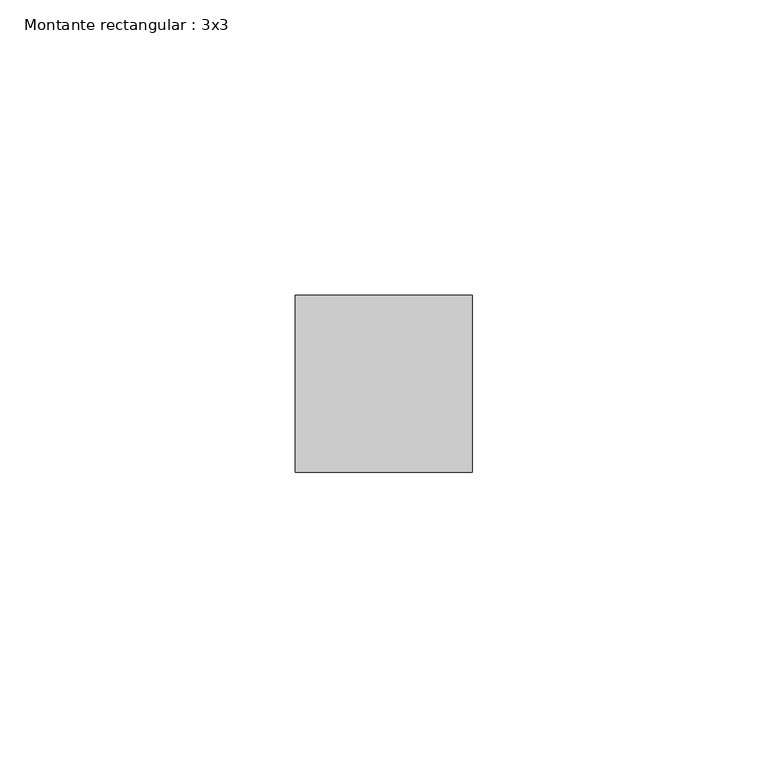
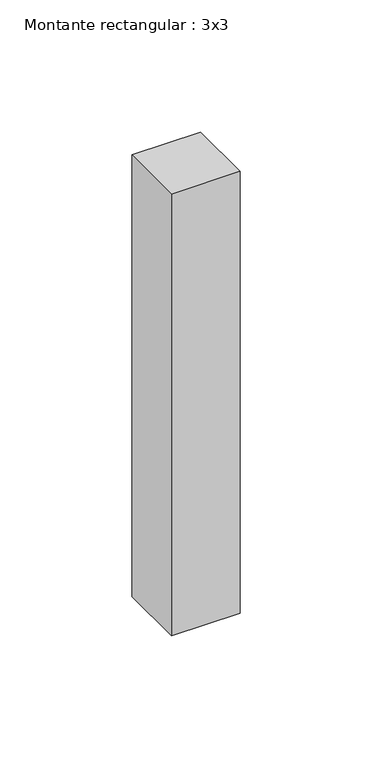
"""IFC4 building model written with IfcOpenShell, lengths in millimetres: member geometry, Montante rectangular : 3x3."""

from ifc_helpers import new_model, si_unit, frame, origin, place, context, project, spatial, polyline, outline, extrude, source, transform, mapped, element, save


def montante_rectangular_3x3_94af334b(model_context):
    return source(origin(), model_context, "Body", "SweptSolid", [
        extrude(outline(polyline([(0.0, 15.0), (0.0, -15.0), (-30.0, -15.0), (-30.0, 15.0), (0.0, 15.0)])), frame((0.0, 0.0, -204.0670737), z_axis=(0.0, 0.0, 1.0), x_axis=(1.0, 0.0, 0.0)), (0.0, 0.0, 1.0), 204.0670737),
    ])


if __name__ == "__main__":
    model = new_model("IFC4")
    model_context = context("Model", 3, world=origin())
    ifc_project = project(units=[si_unit("LENGTHUNIT", "METRE", prefix="MILLI")], contexts=[model_context])
    site = spatial("IfcSite", under=ifc_project)
    building = spatial("IfcBuilding", under=site)
    placement = place(None, origin())
    montante_rectangular_3x3_shape = montante_rectangular_3x3_94af334b(model_context)
    element("IfcMember", 1, ObjectType="Montante rectangular : 3x3", at=placement, inside=building, context=model_context, shape_type="MappedRepresentation", body=[
        mapped(montante_rectangular_3x3_shape, transform((0.0, 0.0, 0.0), x_axis=(1.0, 0.0, 0.0), y_axis=(0.0, 1.0, 0.0), z_axis=(0.0, 0.0, 1.0))),
    ])
    save(model, "model.ifc")
